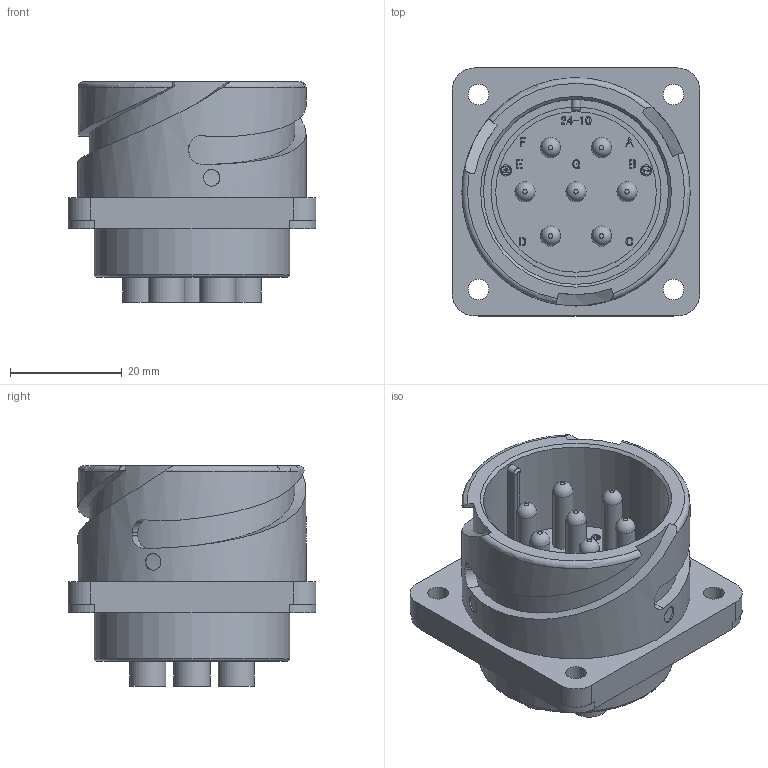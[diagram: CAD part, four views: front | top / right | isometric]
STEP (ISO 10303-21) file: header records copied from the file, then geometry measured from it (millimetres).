
FILE_DESCRIPTION (( 'STEP AP203' ), '1' );
FILE_NAME ('DCA3102R24-10P-D(R1).STEP', '2021-12-22T08:34:31', ( '' ), ( '' ), 'SwSTEP 2.0', 'SolidWorks 2018', '' );
FILE_SCHEMA (( 'CONFIG_CONTROL_DESIGN' ));
Length unit declared in the file: millimetre
Products named in the file (1): DCA3102R24-10P-D(R1)
Bounding box: 44.45 x 44.45 x 39.5 mm (x, y, z)
Volume: 30744.1 mm3; surface area: 14484.9 mm2
Topology: 1 solids, 1 shells, 617 faces, 1619 edges, 1071 vertices
Faces by surface type: plane 326, bspline 189, cylinder 67, cone 16, torus 12, sphere 7
Full cylindrical faces by diameter (mm): 1.6 x4, 2 x4, 3.607 x7, 3.7 x4, 3.73 x4, 5 x7, 6.5 x7, 7.8 x7, 28.8 x1, 31 x1, 33.2 x1, 35 x1, 40.9 x1
Entity records: 25547 total; most frequent: CARTESIAN_POINT 12058, ORIENTED_EDGE 2982, DIRECTION 2099, EDGE_CURVE 1491, VERTEX_POINT 1033, LINE 929, VECTOR 929, EDGE_LOOP 782
